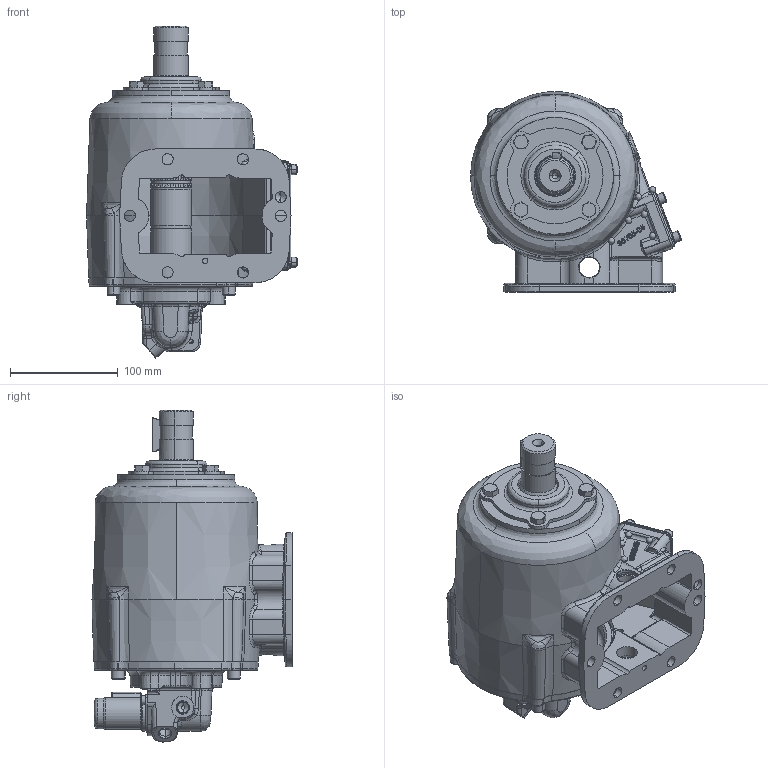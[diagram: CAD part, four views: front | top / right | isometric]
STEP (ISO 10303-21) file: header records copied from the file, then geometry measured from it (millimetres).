
FILE_DESCRIPTION (( 'STEP AP203' ), '1' );
FILE_NAME ('CS6S-XXXXX-S3BX.STEP', '2023-04-11T13:59:31', ( '' ), ( '' ), 'SwSTEP 2.0', 'SolidWorks 2021', '' );
FILE_SCHEMA (( 'CONFIG_CONTROL_DESIGN' ));
Length unit declared in the file: inch
Products named in the file (12): 01T37072; 19T35237; 26T01627; 15T41597; 06t36892; 19T33233; 16T41119; CS6S-XXXXX-S3BX; 35T40860-2; 15T34576; 19T41118; 19T40859
Assembly tree (21 placements, depth 2):
  CS6S-XXXXX-S3BX
    01T37072
    16T41119
    15T34576
    06t36892
    19T35237  x4
    19T41118  x4
    19T33233  x4
    15T41597
    35T40860-2
    19T40859  x2
    26T01627
Bounding box: 195.33 x 185.25 x 307.49 mm (x, y, z)
Volume: 1382089 mm3; surface area: 398752.1 mm2
Topology: 18 solids, 26 shells, 2525 faces, 6460 edges, 3991 vertices
Faces by surface type: bspline 846, cylinder 660, plane 614, cone 313, torus 88, sphere 4
Entity records: 178009 total; most frequent: CARTESIAN_POINT 128439, ORIENTED_EDGE 11522, DIRECTION 7500, EDGE_CURVE 5762, VERTEX_POINT 3644, AXIS2_PLACEMENT_3D 2792, EDGE_LOOP 2473, B_SPLINE_CURVE_WITH_KNOTS 2400
